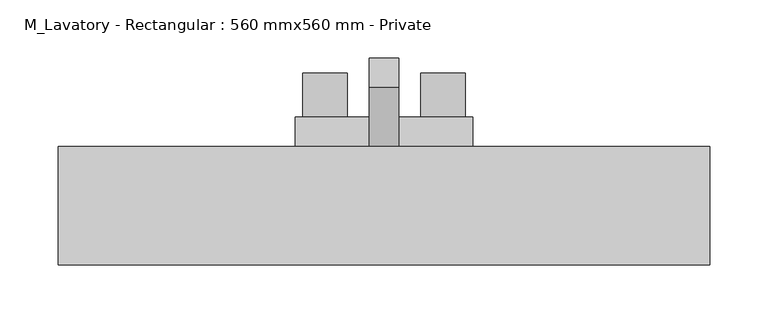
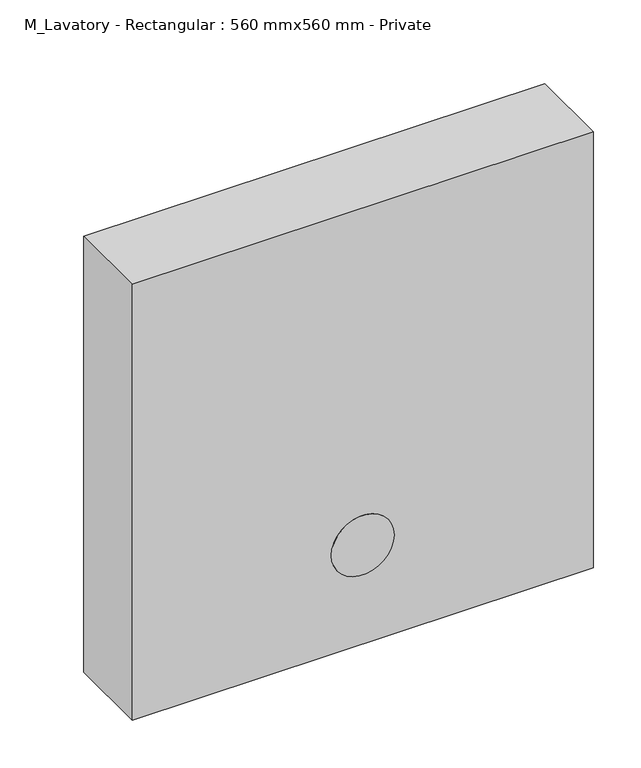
"""IFC4 building model written with IfcOpenShell, lengths in millimetres: flow terminal geometry, M_Lavatory - Rectangular : 560 mmx560 mm - Private."""

from ifc_helpers import new_model, si_unit, point, frame, frame_2d, origin, place, context, project, spatial, circle_curve, trimmed, segment, composite_curve, outline, extrude, faceted_brep, source, transform, mapped, element, save
from ifc_brep_helpers import plane_surface, cylinder_surface, advanced_brep


def m_lavatory_rectangular_560_mmx560_mm_private_8074e013(model_context):
    return source(origin(), model_context, "Body", "SolidModel", [
        advanced_brep(
        [(-76.2, 0.0, 63.5), (-76.2, 0.0, 12.7), (76.2, 0.0, 12.7), (76.2, 0.0, 63.5), (12.7, 0.0, 63.5), (-12.7, 0.0, 63.5), (76.2, 25.4, 63.5), (76.2, 25.4, 12.7), (-76.2, 25.4, 12.7), (-76.2, 25.4, 63.5), (-12.7, 25.4, 63.5), (12.7, 25.4, 63.5), (31.75, 25.4, 38.1), (69.85, 25.4, 38.1), (-69.85, 25.4, 38.1), (-31.75, 25.4, 38.1), (31.75, 63.5, 38.1), (69.85, 63.5, 38.1), (-69.85, 63.5, 38.1), (-31.75, 63.5, 38.1), (12.7, 50.8, 151.488181), (12.7, 76.2, 151.488181), (-12.7, 50.8, 151.488181), (-12.7, 76.2, 151.488181)],
        [
            (0, 1),
            (1, 2),
            (2, 3),
            (3, 4),
            (4, 5),
            (5, 0),
            (6, 7),
            (7, 8),
            (8, 9),
            (9, 10),
            (10, 11),
            (11, 6),
            (12, 13, circle_curve(frame((50.8, 25.4, 38.1), z_axis=(0.0, -1.0, 0.0), x_axis=(1.0, 0.0, 0.0)), 19.05)),
            (13, 12, circle_curve(frame((50.8, 25.4, 38.1), z_axis=(0.0, -1.0, 0.0), x_axis=(1.0, 0.0, 0.0)), 19.05)),
            (14, 15, circle_curve(frame((-50.8, 25.4, 38.1), z_axis=(0.0, -1.0, 0.0), x_axis=(1.0, 0.0, 0.0)), 19.05)),
            (15, 14, circle_curve(frame((-50.8, 25.4, 38.1), z_axis=(0.0, -1.0, 0.0), x_axis=(1.0, 0.0, 0.0)), 19.05)),
            (0, 9),
            (8, 1),
            (7, 2),
            (6, 3),
            (5, 10),
            (11, 4),
            (16, 17, circle_curve(frame((50.8, 63.5, 38.1), z_axis=(0.0, 1.0, 0.0), x_axis=(1.0, 0.0, 0.0)), 19.05)),
            (17, 16, circle_curve(frame((50.8, 63.5, 38.1), z_axis=(0.0, 1.0, 0.0), x_axis=(1.0, 0.0, 0.0)), 19.05)),
            (18, 19, circle_curve(frame((-50.8, 63.5, 38.1), z_axis=(0.0, 1.0, 0.0), x_axis=(1.0, 0.0, 0.0)), 19.05)),
            (19, 18, circle_curve(frame((-50.8, 63.5, 38.1), z_axis=(0.0, 1.0, 0.0), x_axis=(1.0, 0.0, 0.0)), 19.05)),
            (17, 13),
            (12, 16),
            (19, 15),
            (14, 18),
            (20, 4),
            (11, 21),
            (21, 20),
            (22, 23),
            (23, 10),
            (5, 22),
            (20, 22),
            (23, 21),
        ],
        [
            plane_surface(frame((-76.2, 0.0, 63.5), z_axis=(0.0, -1.0, 0.0), x_axis=(0.0, 0.0, -1.0))),
            plane_surface(frame((-76.2, 25.4, 63.5), z_axis=(0.0, 1.0, 0.0), x_axis=(0.0, 0.0, 1.0))),
            plane_surface(frame((-76.2, 0.0, 63.5), z_axis=(-1.0, 0.0, 0.0), x_axis=(0.0, 1.0, 0.0))),
            plane_surface(frame((-76.2, 0.0, 12.7), z_axis=(0.0, 0.0, -1.0), x_axis=(0.0, 1.0, 0.0))),
            plane_surface(frame((76.2, 0.0, 12.7), z_axis=(1.0, 0.0, 0.0), x_axis=(0.0, 1.0, 0.0))),
            plane_surface(frame((76.2, 0.0, 63.5), z_axis=(0.0, 0.0, 1.0), x_axis=(0.0, 1.0, 0.0))),
            plane_surface(frame((69.85, 63.5, 38.1), z_axis=(0.0, 1.0, 0.0), x_axis=(0.0, 0.0, -1.0))),
            cylinder_surface(frame((50.8, 63.5, 38.1), z_axis=(0.0, -1.0, 0.0), x_axis=(1.0, 0.0, 0.0)), 19.05),
            cylinder_surface(frame((-50.8, 0.0, 38.1), z_axis=(0.0, -1.0, 0.0), x_axis=(1.0, 0.0, 0.0)), 19.05),
            plane_surface(frame((12.7, 0.0, 63.5), z_axis=(1.0, 0.0, 0.0), x_axis=(0.0, -0.4999999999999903, -0.8660254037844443))),
            plane_surface(frame((-12.7, 0.0, 63.5), z_axis=(-1.0, 0.0, 0.0), x_axis=(0.0, 0.4999999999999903, 0.8660254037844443))),
            plane_surface(frame((12.7, 50.8, 151.488181), z_axis=(0.0, -0.8660254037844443, 0.4999999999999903), x_axis=(-1.0, 0.0, 0.0))),
            plane_surface(frame((12.7, 25.4, 63.5), z_axis=(0.0, 0.8660254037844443, -0.49999999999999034), x_axis=(-1.0, 0.0, 0.0))),
            plane_surface(frame((12.7, 76.2, 151.488181), z_axis=(0.0, 0.0, 1.0), x_axis=(-1.0, 0.0, 0.0))),
        ],
        [
            (0, [[1, 2, 3, 4, 5, 6]]),
            (1, [[7, 8, 9, 10, 11, 12], [13, 14], [15, 16]]),
            (2, [[-1, 17, -9, 18]]),
            (3, [[-2, -18, -8, 19]]),
            (4, [[-3, -19, -7, 20]]),
            (5, [[-17, -6, 21, -10]]),
            (5, [[-20, -12, 22, -4]]),
            (6, [[23, 24]]),
            (6, [[25, 26]]),
            (7, [[-24, 27, -13, 28]]),
            (7, [[-23, -28, -14, -27]]),
            (8, [[-26, 29, -15, 30]]),
            (8, [[-25, -30, -16, -29]]),
            (9, [[31, -22, 32, 33]]),
            (10, [[34, 35, -21, 36]]),
            (11, [[-31, 37, -36, -5]]),
            (12, [[-32, -11, -35, 38]]),
            (13, [[-33, -38, -34, -37]]),
        ],
    ),
        extrude(outline(composite_curve([segment(trimmed(circle_curve(frame_2d((127.0, 0.0)), 38.1), [point((127.0, -38.1))], [point((127.0, 38.1))], False, "CARTESIAN"), True, "CONTINUOUS"), segment(trimmed(circle_curve(frame_2d((127.0, 0.0)), 38.1), [point((127.0, 38.1))], [point((127.0, -38.1))], False, "CARTESIAN"), True, "CONTINUOUS")], self_intersect=False)), frame((0.0, -101.6, 0.0), z_axis=(0.0, 1.0, 0.0), x_axis=(0.0, 0.0, 1.0)), (0.0, 0.0, 1.0), 25.4),
        faceted_brep([(-280.0, -101.6, 560.0), (-280.0, -101.6, 0.0), (280.0, -101.6, 0.0), (280.0, -101.6, 560.0), (-280.0, 0.0, 560.0), (280.0, 0.0, 560.0), (280.0, 0.0, 0.0), (-280.0, 0.0, 0.0), (-190.5, 0.0, 381.2), (-190.5, 0.0, 76.2), (190.5, 0.0, 76.2), (190.5, 0.0, 381.2), (-165.1, -76.2, 355.8), (165.1, -76.2, 355.8), (165.1, -76.2, 76.2), (-165.1, -76.2, 76.2)], [[[0, 1, 2, 3]], [[4, 5, 6, 7], [8, 9, 10, 11]], [[1, 0, 4, 7]], [[2, 1, 7, 6]], [[3, 2, 6, 5]], [[0, 3, 5, 4]], [[12, 13, 14, 15]], [[12, 15, 9, 8]], [[15, 14, 10, 9]], [[14, 13, 11, 10]], [[13, 12, 8, 11]]]),
    ])


if __name__ == "__main__":
    model = new_model("IFC4")
    model_context = context("Model", 3, world=origin())
    ifc_project = project(units=[si_unit("LENGTHUNIT", "METRE", prefix="MILLI")], contexts=[model_context])
    site = spatial("IfcSite", under=ifc_project)
    building = spatial("IfcBuilding", under=site)
    placement = place(None, origin())
    m_lavatory_rectangular_560_mmx560_mm_private_shape = m_lavatory_rectangular_560_mmx560_mm_private_8074e013(model_context)
    element("IfcFlowTerminal", 1, ObjectType="M_Lavatory - Rectangular : 560 mmx560 mm - Private", at=placement, inside=building, context=model_context, shape_type="MappedRepresentation", body=[
        mapped(m_lavatory_rectangular_560_mmx560_mm_private_shape, transform((0.0, 0.0, 0.0), x_axis=(1.0, 0.0, 0.0), y_axis=(0.0, 1.0, 0.0), z_axis=(0.0, 0.0, 1.0))),
    ])
    save(model, "model.ifc")
